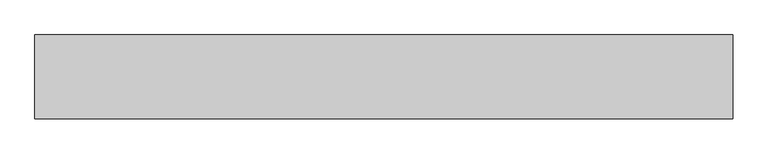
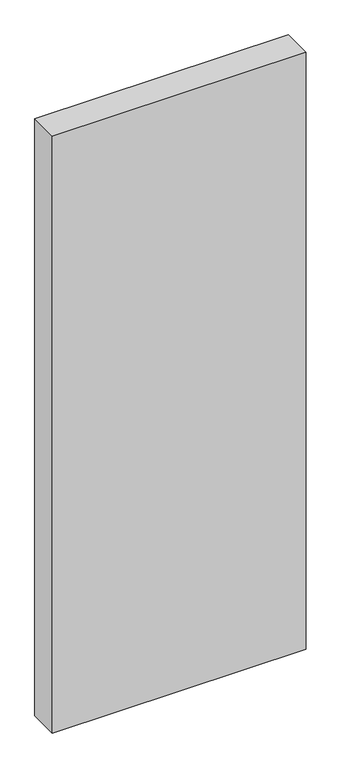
"""IFC4 building model written with IfcOpenShell, lengths in millimetres: proxy geometry."""

from ifc_helpers import new_model, si_unit, origin, origin_with_axes, place, context, project, spatial, polyline, outline, extrude, source, transform, mapped, element, save


def generic_models_5bbf01fa(model_context):
    return source(origin(), model_context, "Body", "SweptSolid", [
        extrude(outline(polyline([(-1000.0, 0.0), (0.0, 0.0), (0.0, -120.0), (-1000.0, -120.0), (-1000.0, 0.0)])), origin_with_axes(), (0.0, 0.0, 1.0), 2485.0),
    ])


if __name__ == "__main__":
    model = new_model("IFC4")
    model_context = context("Model", 3, world=origin())
    ifc_project = project(units=[si_unit("LENGTHUNIT", "METRE", prefix="MILLI")], contexts=[model_context])
    site = spatial("IfcSite", under=ifc_project)
    building = spatial("IfcBuilding", under=site)
    placement = place(None, origin())
    generic_models_shape = generic_models_5bbf01fa(model_context)
    element("IfcBuildingElementProxy", 1, Name="Generic Models", at=placement, inside=building, context=model_context, shape_type="MappedRepresentation", body=[
        mapped(generic_models_shape, transform((0.0, 0.0, 0.0), x_axis=(1.0, 0.0, 0.0), y_axis=(0.0, 1.0, 0.0), z_axis=(0.0, 0.0, 1.0))),
    ])
    save(model, "model.ifc")
